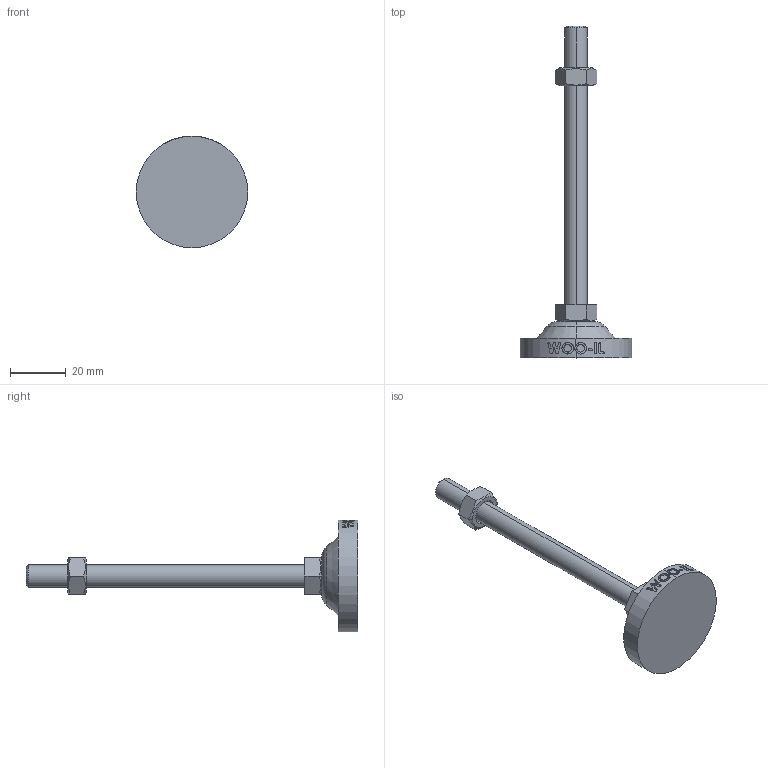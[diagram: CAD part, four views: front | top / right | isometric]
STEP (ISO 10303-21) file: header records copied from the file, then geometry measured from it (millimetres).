
FILE_DESCRIPTION (( 'STEP AP214' ), '1' );
FILE_NAME ('RB40-M8-100.step', '2021-01-18T05:48:01', ( '' ), ( '' ), 'SwSTEP 2.0', 'SolidWorks 2019', '' );
FILE_SCHEMA (( 'AUTOMOTIVE_DESIGN' ));
Length unit declared in the file: millimetre
Products named in the file (2): RB40-M8-100
Bounding box: 40 x 119 x 40 mm (x, y, z)
Volume: 16567 mm3; surface area: 8028.3 mm2
Topology: 2 solids, 3 shells, 129 faces, 323 edges, 210 vertices
Faces by surface type: plane 48, cylinder 43, bspline 18, cone 16, torus 4
Entity records: 5302 total; most frequent: CARTESIAN_POINT 2423, ORIENTED_EDGE 646, DIRECTION 483, EDGE_CURVE 323, VERTEX_POINT 210, AXIS2_PLACEMENT_3D 177, EDGE_LOOP 141, ADVANCED_FACE 129
